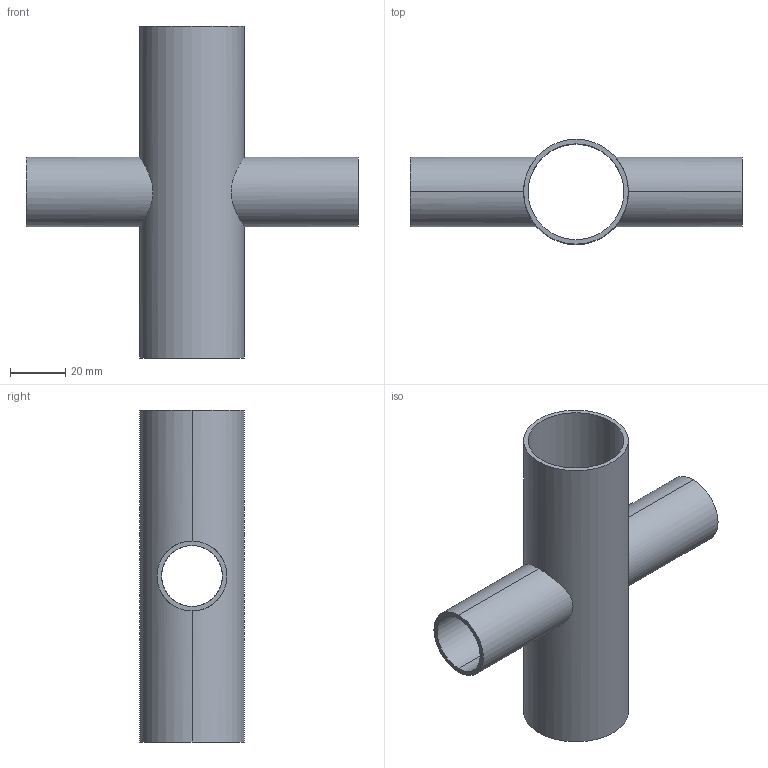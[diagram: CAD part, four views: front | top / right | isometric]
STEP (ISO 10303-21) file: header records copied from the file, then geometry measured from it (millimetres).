
FILE_DESCRIPTION (( 'STEP AP214' ), '1' );
FILE_NAME ('TE9RWWWW6L1.5x1.0-...STEP', '2016-05-22T04:14:12', ( 'eran' ), ( '' ), 'SwSTEP 2.0', 'SolidWorks 2016', '' );
FILE_SCHEMA (( 'AUTOMOTIVE_DESIGN' ));
Length unit declared in the file: millimetre
Products named in the file (1): TE9RWWWW6L1.5x1.0-..
Bounding box: 120.65 x 38.1 x 120.65 mm (x, y, z)
Volume: 32141.3 mm3; surface area: 39546.1 mm2
Topology: 1 solids, 1 shells, 16 faces, 40 edges, 24 vertices
Faces by surface type: cylinder 12, plane 4
Entity records: 886 total; most frequent: CARTESIAN_POINT 461, DIRECTION 82, ORIENTED_EDGE 80, EDGE_CURVE 40, AXIS2_PLACEMENT_3D 33, VERTEX_POINT 24, EDGE_LOOP 20, VECTOR 16
